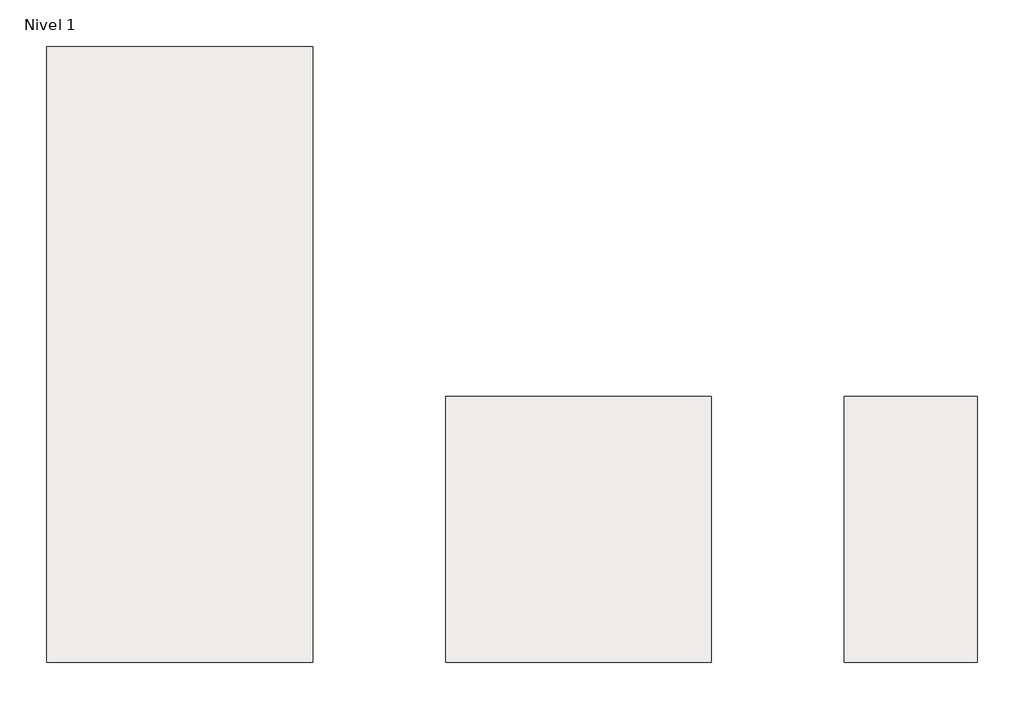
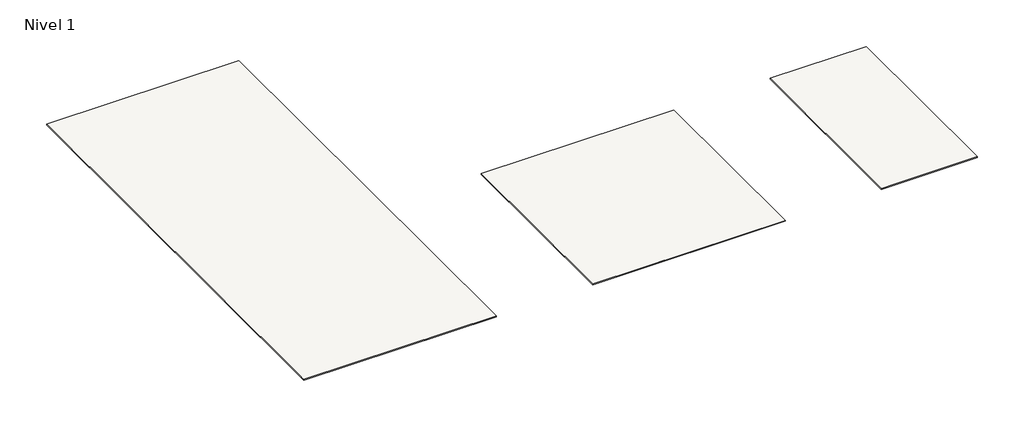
# One storey: 3 slabs.
"""IFC4 building model written with IfcOpenShell, lengths in millimetres."""

from ifc_helpers import new_model, si_unit, frame, origin, place, context, project, spatial, polyline, outline, extrude, element, save

model = new_model("IFC4")

# Units and contexts
model_context = context("Model", 3, world=origin())
ifc_project = project(units=[si_unit("LENGTHUNIT", "METRE", prefix="MILLI")], contexts=[model_context])

# Site, building, storey
site = spatial("IfcSite", under=ifc_project)
building = spatial("IfcBuilding", under=site)
storey = spatial("IfcBuildingStorey", under=building, Name="Nivel 1", Elevation=0.0)

# Slabs
placement = place(None, origin())
element("IfcSlab", 1, ObjectType="Blue Roma 120X278 5,6", at=placement, inside=storey, context=model_context, shape_type="SweptSolid", body=[
    extrude(outline(polyline([(0.0, 2780.0), (1200.0, 2780.0), (1200.0, 0.0), (0.0, 0.0), (0.0, 2780.0)])), frame((0.0, 0.0, -5.6), z_axis=(0.0, 0.0, 1.0), x_axis=(1.0, 0.0, 0.0)), (0.0, 0.0, 1.0), 5.6),
])
element("IfcSlab", 2, ObjectType="Blue Roma 120X120 5,6", at=placement, inside=storey, context=model_context, shape_type="SweptSolid", body=[
    extrude(outline(polyline([(1800.0, 1200.0), (3000.0, 1200.0), (3000.0, 0.0), (1800.0, 0.0), (1800.0, 1200.0)])), frame((0.0, 0.0, -5.6), z_axis=(0.0, 0.0, 1.0), x_axis=(1.0, 0.0, 0.0)), (0.0, 0.0, 1.0), 5.6),
])
element("IfcSlab", 3, ObjectType="Blue Roma 60X120 5,6", at=placement, inside=storey, context=model_context, shape_type="SweptSolid", body=[
    extrude(outline(polyline([(3600.0, 1200.0), (4200.0, 1200.0), (4200.0, 0.0), (3600.0, 0.0), (3600.0, 1200.0)])), frame((0.0, 0.0, -5.6), z_axis=(0.0, 0.0, 1.0), x_axis=(1.0, 0.0, 0.0)), (0.0, 0.0, 1.0), 5.6),
])

save(model, "model.ifc")
